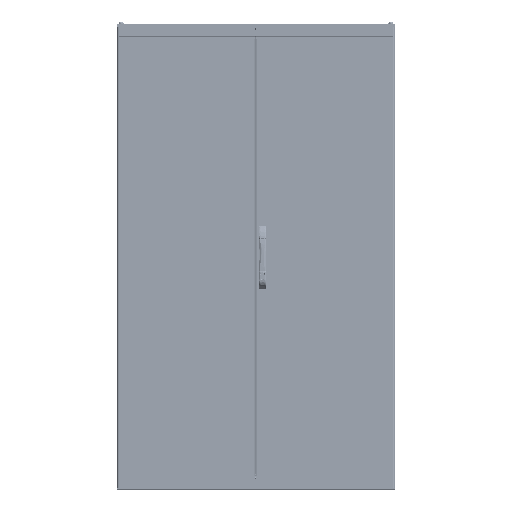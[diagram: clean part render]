
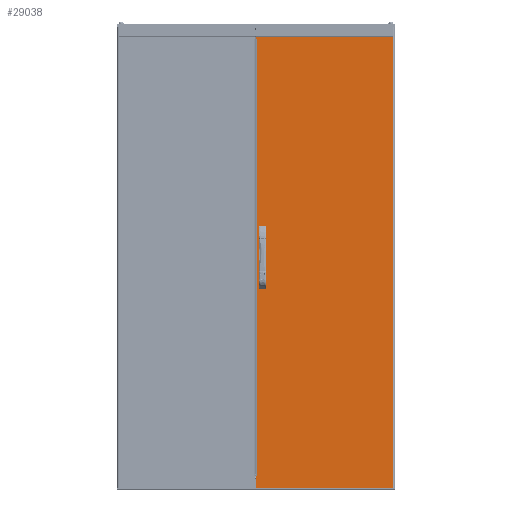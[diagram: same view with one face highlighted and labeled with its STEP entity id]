
A CAD part, top view. The second image highlights one B-rep face of the part: STEP entity #29038.
In plain terms, the highlighted planar face has unit normal (0, 0, 1) as drawn and (0, -1, 0) by its records, which use the part's own axes.
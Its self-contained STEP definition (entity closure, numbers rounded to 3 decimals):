
#1986 = CARTESIAN_POINT ( 'NONE',  ( 876.493, 0., -27. ) ) ;
#6356 = EDGE_CURVE ( 'NONE', #347008, #111223, #132066, .T. ) ;
#6549 = CARTESIAN_POINT ( 'NONE',  ( 50.78, 0., 0. ) ) ;
#12988 = DIRECTION ( 'NONE',  ( 0., -1., 0. ) ) ;
#17617 = EDGE_CURVE ( 'NONE', #158997, #223655, #248344, .T. ) ;
#19987 = CARTESIAN_POINT ( 'NONE',  ( 0., 0., 0. ) ) ;
#23485 = CARTESIAN_POINT ( 'NONE',  ( 1106.497, 0., -24.15 ) ) ;
#25984 = VERTEX_POINT ( 'NONE', #247369 ) ;
#28286 = VERTEX_POINT ( 'NONE', #389819 ) ;
#29038 = ADVANCED_FACE ( 'NONE', ( #215118, #333259, #241612, #306724 ), #50295, .T. ) ;
#34487 = DIRECTION ( 'NONE',  ( 0., 0., -1. ) ) ;
#38291 = DIRECTION ( 'NONE',  ( 0., -1., 0. ) ) ;
#39847 = ORIENTED_EDGE ( 'NONE', *, *, #328697, .T. ) ;
#41469 = DIRECTION ( 'NONE',  ( 0., 0., -1. ) ) ;
#44759 = VECTOR ( 'NONE', #144128, 1000. ) ;
#48612 = AXIS2_PLACEMENT_3D ( 'NONE', #1986, #213832, #34487 ) ;
#48783 = EDGE_CURVE ( 'NONE', #223655, #28286, #262268, .T. ) ;
#49426 = ORIENTED_EDGE ( 'NONE', *, *, #362342, .F. ) ;
#50295 = PLANE ( 'NONE',  #155473 ) ;
#50865 = EDGE_CURVE ( 'NONE', #105710, #25984, #253933, .T. ) ;
#52009 = LINE ( 'NONE', #388028, #401154 ) ;
#57075 = EDGE_CURVE ( 'NONE', #357000, #311412, #198736, .T. ) ;
#60269 = ORIENTED_EDGE ( 'NONE', *, *, #225596, .F. ) ;
#70880 = DIRECTION ( 'NONE',  ( 0., 0., -1. ) ) ;
#77659 = CARTESIAN_POINT ( 'NONE',  ( 876.493, 0., -24.15 ) ) ;
#78369 = CARTESIAN_POINT ( 'NONE',  ( 0., 0., 0. ) ) ;
#81571 = VECTOR ( 'NONE', #257619, 1000. ) ;
#87273 = VERTEX_POINT ( 'NONE', #375973 ) ;
#92597 = VERTEX_POINT ( 'NONE', #242372 ) ;
#92854 = CIRCLE ( 'NONE', #320386, 2.85 ) ;
#96383 = CARTESIAN_POINT ( 'NONE',  ( 958.745, 0., -22.75 ) ) ;
#97305 = DIRECTION ( 'NONE',  ( 0., 0., -1. ) ) ;
#99323 = ORIENTED_EDGE ( 'NONE', *, *, #17617, .F. ) ;
#101778 = LINE ( 'NONE', #350136, #125830 ) ;
#101824 = DIRECTION ( 'NONE',  ( 0., 0., 1. ) ) ;
#103661 = ORIENTED_EDGE ( 'NONE', *, *, #393929, .F. ) ;
#105335 = DIRECTION ( 'NONE',  ( 0., -1., 0. ) ) ;
#105710 = VERTEX_POINT ( 'NONE', #23485 ) ;
#107197 = DIRECTION ( 'NONE',  ( 0., 0., -1. ) ) ;
#107524 = CARTESIAN_POINT ( 'NONE',  ( 0., 0., -31.25 ) ) ;
#111223 = VERTEX_POINT ( 'NONE', #343658 ) ;
#115852 = ORIENTED_EDGE ( 'NONE', *, *, #365897, .F. ) ;
#124787 = AXIS2_PLACEMENT_3D ( 'NONE', #275491, #231410, #107197 ) ;
#125830 = VECTOR ( 'NONE', #193379, 1000. ) ;
#129970 = ORIENTED_EDGE ( 'NONE', *, *, #191607, .F. ) ;
#130585 = DIRECTION ( 'NONE',  ( 0., 0., -1. ) ) ;
#131256 = CARTESIAN_POINT ( 'NONE',  ( 50.78, 0., -589. ) ) ;
#132042 = EDGE_LOOP ( 'NONE', ( #99323, #60269, #335324, #267301 ) ) ;
#132066 = LINE ( 'NONE', #382536, #263054 ) ;
#140877 = EDGE_LOOP ( 'NONE', ( #402315, #230105 ) ) ;
#142345 = CARTESIAN_POINT ( 'NONE',  ( 1982.99, 0., -589. ) ) ;
#144128 = DIRECTION ( 'NONE',  ( 1., 0., 0. ) ) ;
#144939 = VECTOR ( 'NONE', #101824, 1000. ) ;
#148289 = EDGE_LOOP ( 'NONE', ( #249309, #49426 ) ) ;
#154007 = VERTEX_POINT ( 'NONE', #170552 ) ;
#155473 = AXIS2_PLACEMENT_3D ( 'NONE', #239634, #213090, #337252 ) ;
#157158 = CARTESIAN_POINT ( 'NONE',  ( 1106.497, 0., -27. ) ) ;
#158997 = VERTEX_POINT ( 'NONE', #96383 ) ;
#163537 = CARTESIAN_POINT ( 'NONE',  ( 1932.21, 0., -1.51 ) ) ;
#168019 = AXIS2_PLACEMENT_3D ( 'NONE', #384256, #105335, #97305 ) ;
#168893 = LINE ( 'NONE', #319605, #144939 ) ;
#170552 = CARTESIAN_POINT ( 'NONE',  ( 1024.245, 0., -22.75 ) ) ;
#171860 = LINE ( 'NONE', #131256, #191808 ) ;
#173004 = CIRCLE ( 'NONE', #48612, 2.85 ) ;
#173251 = CARTESIAN_POINT ( 'NONE',  ( 958.745, 0., -31.25 ) ) ;
#183480 = EDGE_CURVE ( 'NONE', #92597, #283339, #92854, .T. ) ;
#191607 = EDGE_CURVE ( 'NONE', #87273, #311412, #386527, .T. ) ;
#191714 = DIRECTION ( 'NONE',  ( 0., -1., 0. ) ) ;
#191808 = VECTOR ( 'NONE', #263548, 1000. ) ;
#193379 = DIRECTION ( 'NONE',  ( 0., 0., -1. ) ) ;
#198736 = LINE ( 'NONE', #255773, #256471 ) ;
#208640 = AXIS2_PLACEMENT_3D ( 'NONE', #157158, #191714, #130585 ) ;
#213090 = DIRECTION ( 'NONE',  ( 0., -1., 0. ) ) ;
#213832 = DIRECTION ( 'NONE',  ( 0., -1., 0. ) ) ;
#215118 = FACE_BOUND ( 'NONE', #132042, .T. ) ;
#218809 = EDGE_CURVE ( 'NONE', #357000, #350229, #270376, .T. ) ;
#223655 = VERTEX_POINT ( 'NONE', #173251 ) ;
#225596 = EDGE_CURVE ( 'NONE', #154007, #158997, #52009, .T. ) ;
#228979 = ORIENTED_EDGE ( 'NONE', *, *, #238009, .T. ) ;
#230105 = ORIENTED_EDGE ( 'NONE', *, *, #183480, .F. ) ;
#231410 = DIRECTION ( 'NONE',  ( 0., -1., 0. ) ) ;
#233154 = LINE ( 'NONE', #78369, #81571 ) ;
#238009 = EDGE_CURVE ( 'NONE', #87273, #347008, #101778, .T. ) ;
#239634 = CARTESIAN_POINT ( 'NONE',  ( 0., 0., -589. ) ) ;
#241612 = FACE_BOUND ( 'NONE', #140877, .T. ) ;
#242372 = CARTESIAN_POINT ( 'NONE',  ( 876.493, 0., -29.85 ) ) ;
#247369 = CARTESIAN_POINT ( 'NONE',  ( 1106.497, 0., -29.85 ) ) ;
#248206 = EDGE_CURVE ( 'NONE', #28286, #154007, #376148, .T. ) ;
#248344 = CIRCLE ( 'NONE', #124787, 4.25 ) ;
#249309 = ORIENTED_EDGE ( 'NONE', *, *, #50865, .F. ) ;
#249858 = CIRCLE ( 'NONE', #256525, 2.85 ) ;
#253933 = CIRCLE ( 'NONE', #208640, 2.85 ) ;
#255773 = CARTESIAN_POINT ( 'NONE',  ( 1982.99, 0., -589. ) ) ;
#256471 = VECTOR ( 'NONE', #286403, 1000. ) ;
#256525 = AXIS2_PLACEMENT_3D ( 'NONE', #378349, #38291, #70880 ) ;
#257619 = DIRECTION ( 'NONE',  ( 1., 0., 0. ) ) ;
#262268 = LINE ( 'NONE', #107524, #402238 ) ;
#263054 = VECTOR ( 'NONE', #292943, 1000. ) ;
#263548 = DIRECTION ( 'NONE',  ( 0., 0., 1. ) ) ;
#267301 = ORIENTED_EDGE ( 'NONE', *, *, #48783, .F. ) ;
#267420 = CARTESIAN_POINT ( 'NONE',  ( 0., 0., 0. ) ) ;
#270376 = LINE ( 'NONE', #394580, #320166 ) ;
#275331 = CARTESIAN_POINT ( 'NONE',  ( 1982.99, 0., 0. ) ) ;
#275491 = CARTESIAN_POINT ( 'NONE',  ( 958.745, 0., -27. ) ) ;
#283339 = VERTEX_POINT ( 'NONE', #77659 ) ;
#285925 = CARTESIAN_POINT ( 'NONE',  ( 876.493, 0., -27. ) ) ;
#286403 = DIRECTION ( 'NONE',  ( 0., 0., 1. ) ) ;
#289042 = ORIENTED_EDGE ( 'NONE', *, *, #218809, .F. ) ;
#292943 = DIRECTION ( 'NONE',  ( -1., 0., 0. ) ) ;
#296449 = EDGE_LOOP ( 'NONE', ( #129970, #228979, #343991, #39847, #115852, #103661, #289042, #339897 ) ) ;
#300625 = EDGE_CURVE ( 'NONE', #283339, #92597, #173004, .T. ) ;
#306724 = FACE_OUTER_BOUND ( 'NONE', #296449, .T. ) ;
#311412 = VERTEX_POINT ( 'NONE', #275331 ) ;
#319605 = CARTESIAN_POINT ( 'NONE',  ( 0., 0., 0. ) ) ;
#320166 = VECTOR ( 'NONE', #373528, 1000. ) ;
#320386 = AXIS2_PLACEMENT_3D ( 'NONE', #285925, #12988, #41469 ) ;
#325948 = VERTEX_POINT ( 'NONE', #267420 ) ;
#327195 = CARTESIAN_POINT ( 'NONE',  ( 0., 0., -589. ) ) ;
#328697 = EDGE_CURVE ( 'NONE', #111223, #341287, #171860, .T. ) ;
#329353 = DIRECTION ( 'NONE',  ( 1., 0., 0. ) ) ;
#333259 = FACE_BOUND ( 'NONE', #148289, .T. ) ;
#335324 = ORIENTED_EDGE ( 'NONE', *, *, #248206, .F. ) ;
#337252 = DIRECTION ( 'NONE',  ( 0., 0., -1. ) ) ;
#339897 = ORIENTED_EDGE ( 'NONE', *, *, #57075, .T. ) ;
#341287 = VERTEX_POINT ( 'NONE', #6549 ) ;
#343658 = CARTESIAN_POINT ( 'NONE',  ( 50.78, 0., -1.51 ) ) ;
#343991 = ORIENTED_EDGE ( 'NONE', *, *, #6356, .T. ) ;
#347008 = VERTEX_POINT ( 'NONE', #163537 ) ;
#350136 = CARTESIAN_POINT ( 'NONE',  ( 1932.21, 0., -589. ) ) ;
#350229 = VERTEX_POINT ( 'NONE', #327195 ) ;
#355452 = DIRECTION ( 'NONE',  ( -1., 0., 0. ) ) ;
#357000 = VERTEX_POINT ( 'NONE', #142345 ) ;
#362342 = EDGE_CURVE ( 'NONE', #25984, #105710, #249858, .T. ) ;
#365897 = EDGE_CURVE ( 'NONE', #325948, #341287, #233154, .T. ) ;
#373528 = DIRECTION ( 'NONE',  ( -1., 0., 0. ) ) ;
#375973 = CARTESIAN_POINT ( 'NONE',  ( 1932.21, 0., 0. ) ) ;
#376148 = CIRCLE ( 'NONE', #168019, 4.25 ) ;
#378349 = CARTESIAN_POINT ( 'NONE',  ( 1106.497, 0., -27. ) ) ;
#382536 = CARTESIAN_POINT ( 'NONE',  ( 1932.21, 0., -1.51 ) ) ;
#384256 = CARTESIAN_POINT ( 'NONE',  ( 1024.245, 0., -27. ) ) ;
#386527 = LINE ( 'NONE', #19987, #44759 ) ;
#388028 = CARTESIAN_POINT ( 'NONE',  ( 0., 0., -22.75 ) ) ;
#389819 = CARTESIAN_POINT ( 'NONE',  ( 1024.245, 0., -31.25 ) ) ;
#393929 = EDGE_CURVE ( 'NONE', #350229, #325948, #168893, .T. ) ;
#394580 = CARTESIAN_POINT ( 'NONE',  ( 0., 0., -589. ) ) ;
#401154 = VECTOR ( 'NONE', #355452, 1000. ) ;
#402238 = VECTOR ( 'NONE', #329353, 1000. ) ;
#402315 = ORIENTED_EDGE ( 'NONE', *, *, #300625, .F. ) ;
